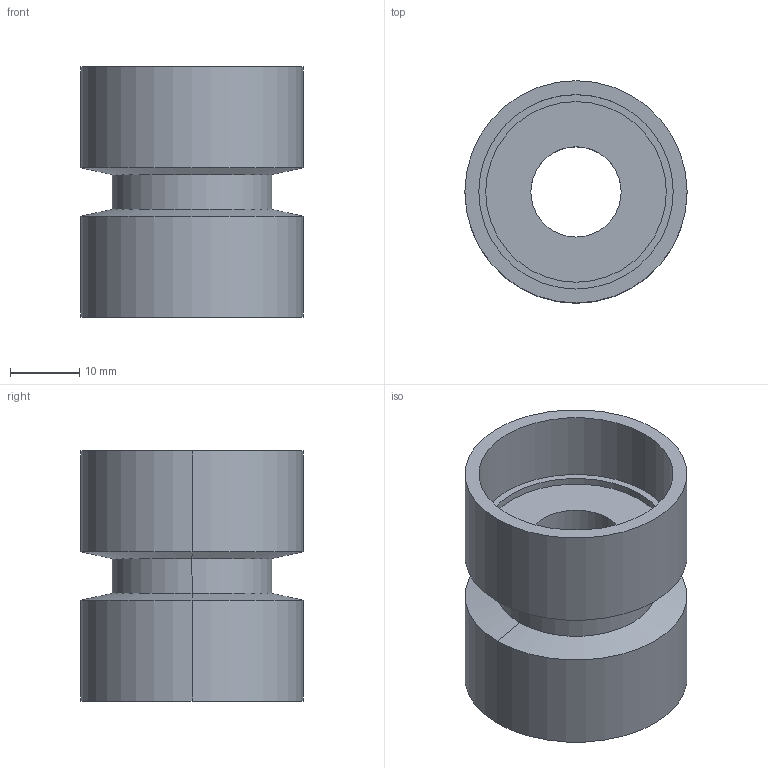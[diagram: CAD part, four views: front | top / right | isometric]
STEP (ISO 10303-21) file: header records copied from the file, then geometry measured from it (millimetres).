
FILE_DESCRIPTION (( 'STEP AP214' ), '1' );
FILE_NAME ('084.030.212.STEP', '2021-02-05T15:55:09', ( '' ), ( '' ), 'SwSTEP 2.0', 'SolidWorks 2018', '' );
FILE_SCHEMA (( 'AUTOMOTIVE_DESIGN' ));
Length unit declared in the file: millimetre
Products named in the file (1): 084.030.212
Bounding box: 32 x 32 x 36 mm (x, y, z)
Volume: 11363.9 mm3; surface area: 7910.6 mm2
Topology: 1 solids, 1 shells, 26 faces, 52 edges, 32 vertices
Faces by surface type: cylinder 16, plane 6, cone 4
Entity records: 722 total; most frequent: DIRECTION 138, CARTESIAN_POINT 111, ORIENTED_EDGE 104, AXIS2_PLACEMENT_3D 59, EDGE_CURVE 52, EDGE_LOOP 32, CIRCLE 32, VERTEX_POINT 32
